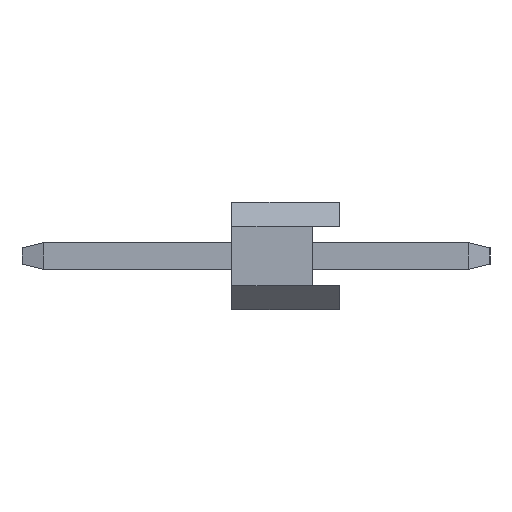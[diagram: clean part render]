
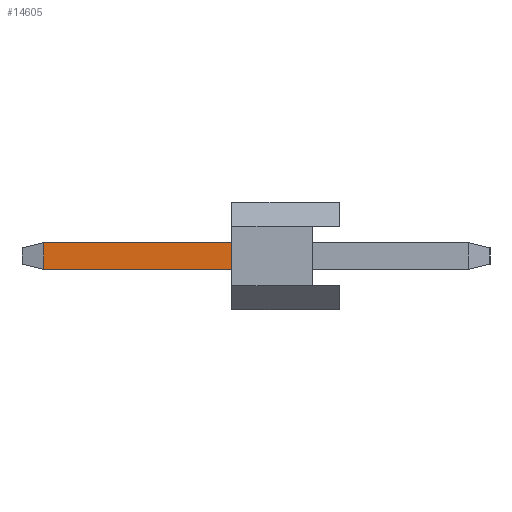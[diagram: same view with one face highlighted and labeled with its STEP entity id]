
A CAD part, left-side view. The second image highlights one B-rep face of the part: STEP entity #14605.
In plain terms, the highlighted planar face has unit normal (-1, 0, 0).
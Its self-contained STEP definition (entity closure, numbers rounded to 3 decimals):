
#182 = CARTESIAN_POINT ( 'NONE',  ( -1.3, 2., -1.25 ) ) ;
#2604 = VECTOR ( 'NONE', #12461, 1000. ) ;
#2693 = CARTESIAN_POINT ( 'NONE',  ( -1.3, 5.5, -1.125 ) ) ;
#3201 = CARTESIAN_POINT ( 'NONE',  ( -1.3, 2., -1.25 ) ) ;
#4100 = CARTESIAN_POINT ( 'NONE',  ( -1.3, 5.5, -0.75 ) ) ;
#4519 = LINE ( 'NONE', #12792, #18520 ) ;
#4665 = CARTESIAN_POINT ( 'NONE',  ( -1.3, 2., -0.75 ) ) ;
#5621 = CARTESIAN_POINT ( 'NONE',  ( -1.3, 2., -1.25 ) ) ;
#6302 = FACE_OUTER_BOUND ( 'NONE', #20171, .T. ) ;
#6326 = DIRECTION ( 'NONE',  ( 0., 1., 0. ) ) ;
#6388 = ORIENTED_EDGE ( 'NONE', *, *, #20765, .F. ) ;
#6912 = VERTEX_POINT ( 'NONE', #182 ) ;
#7115 = EDGE_CURVE ( 'NONE', #12338, #6912, #12907, .T. ) ;
#8024 = DIRECTION ( 'NONE',  ( 0., 0., -1. ) ) ;
#9973 = VERTEX_POINT ( 'NONE', #19680 ) ;
#10213 = EDGE_CURVE ( 'NONE', #9973, #14187, #12254, .T. ) ;
#11064 = VECTOR ( 'NONE', #13809, 1000. ) ;
#11377 = DIRECTION ( 'NONE',  ( -1., 0., 0. ) ) ;
#11493 = AXIS2_PLACEMENT_3D ( 'NONE', #3201, #11377, #15962 ) ;
#12142 = ORIENTED_EDGE ( 'NONE', *, *, #17386, .T. ) ;
#12254 = LINE ( 'NONE', #2693, #2604 ) ;
#12338 = VERTEX_POINT ( 'NONE', #4665 ) ;
#12415 = LINE ( 'NONE', #5621, #11064 ) ;
#12461 = DIRECTION ( 'NONE',  ( 0., 0., 1. ) ) ;
#12792 = CARTESIAN_POINT ( 'NONE',  ( -1.3, 2., -0.75 ) ) ;
#12907 = LINE ( 'NONE', #17782, #20000 ) ;
#13809 = DIRECTION ( 'NONE',  ( 0., 1., 0. ) ) ;
#14187 = VERTEX_POINT ( 'NONE', #4100 ) ;
#14370 = PLANE ( 'NONE',  #11493 ) ;
#14605 = ADVANCED_FACE ( 'NONE', ( #6302 ), #14370, .T. ) ;
#15962 = DIRECTION ( 'NONE',  ( 0., 0., 1. ) ) ;
#17386 = EDGE_CURVE ( 'NONE', #12338, #14187, #4519, .T. ) ;
#17782 = CARTESIAN_POINT ( 'NONE',  ( -1.3, 2., -1.125 ) ) ;
#18520 = VECTOR ( 'NONE', #6326, 1000. ) ;
#19371 = ORIENTED_EDGE ( 'NONE', *, *, #10213, .F. ) ;
#19680 = CARTESIAN_POINT ( 'NONE',  ( -1.3, 5.5, -1.25 ) ) ;
#20000 = VECTOR ( 'NONE', #8024, 1000. ) ;
#20171 = EDGE_LOOP ( 'NONE', ( #19371, #6388, #20213, #12142 ) ) ;
#20213 = ORIENTED_EDGE ( 'NONE', *, *, #7115, .F. ) ;
#20765 = EDGE_CURVE ( 'NONE', #6912, #9973, #12415, .T. ) ;
